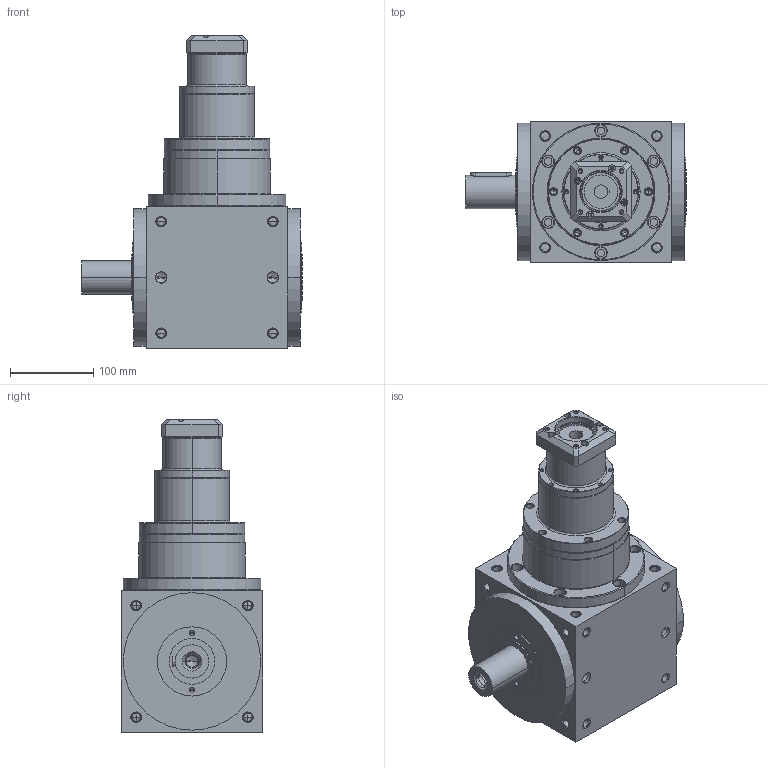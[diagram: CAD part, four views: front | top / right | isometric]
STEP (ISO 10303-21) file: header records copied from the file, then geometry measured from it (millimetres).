
FILE_DESCRIPTION((''),'2;1');
FILE_NAME('ATB170FL13-P0405200304_ASM','2014-07-29T',('d01707'),(''),'PRO/ENGINEER BY PARAMETRIC TECHNOLOGY CORPORATION, 2008410','PRO/ENGINEER BY PARAMETRIC TECHNOLOGY CORPORATION, 2008410','');
FILE_SCHEMA(('CONFIG_CONTROL_DESIGN'));
Length unit declared in the file: millimetre
Products named in the file (6): ATBFL1-HOUSING-3-7; P1820700001; P0226700002; P0227700001; P0405200304; ATB170FL13-P0405200304_ASM
Assembly tree (5 placements, depth 2):
  ATB170FL13-P0405200304_ASM
    ATBFL1-HOUSING-3-7
    P1820700001
    P0226700002
    P0227700001
    P0405200304
Bounding box: 264 x 170 x 375 mm (x, y, z)
Volume: 6660664.1 mm3; surface area: 466167.7 mm2
Topology: 5 solids, 52 shells, 955 faces, 2317 edges, 1362 vertices
Faces by surface type: cylinder 412, cone 358, plane 121, torus 60, bspline 4
Entity records: 28327 total; most frequent: CARTESIAN_POINT 5776, DIRECTION 5161, ORIENTED_EDGE 4222, EDGE_CURVE 2205, AXIS2_PLACEMENT_3D 2170, VERTEX_POINT 1362, CIRCLE 1198, EDGE_LOOP 1147
